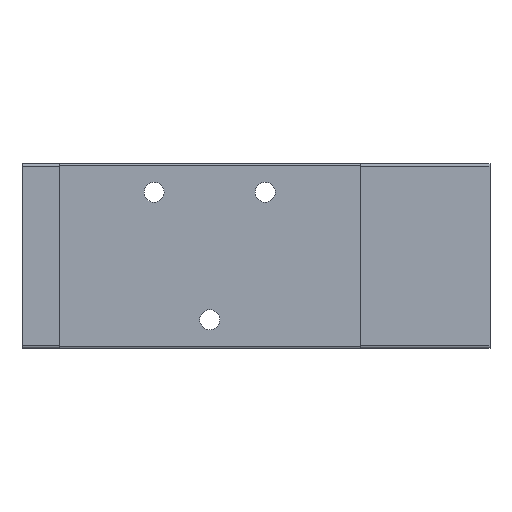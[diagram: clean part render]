
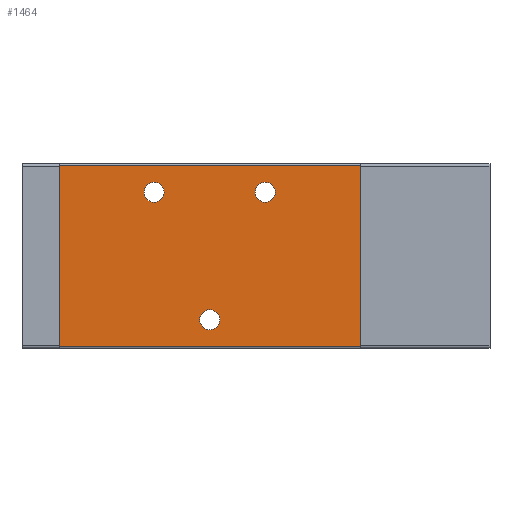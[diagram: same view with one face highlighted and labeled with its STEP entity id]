
A CAD part, front view. The second image highlights one B-rep face of the part: STEP entity #1464.
In plain terms, the highlighted planar face has unit normal (0, -1, 0).
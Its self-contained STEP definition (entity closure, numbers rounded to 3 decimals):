
#9 = CARTESIAN_POINT ( 'NONE',  ( 20.5, 0., 11.6 ) ) ;
#172 = AXIS2_PLACEMENT_3D ( 'NONE', #985, #9600, #15532 ) ;
#738 = ORIENTED_EDGE ( 'NONE', *, *, #4476, .T. ) ;
#915 = DIRECTION ( 'NONE',  ( 0., 1., 0. ) ) ;
#985 = CARTESIAN_POINT ( 'NONE',  ( 32.5, 0., -13.75 ) ) ;
#1061 = CARTESIAN_POINT ( 'NONE',  ( 32.5, 0., -13.75 ) ) ;
#1464 = ADVANCED_FACE ( 'NONE', ( #7481, #9032, #5802, #5424 ), #4223, .F. ) ;
#1754 = CIRCLE ( 'NONE', #5071, 2.15 ) ;
#1792 = EDGE_CURVE ( 'NONE', #12552, #12002, #10863, .T. ) ;
#2098 = ORIENTED_EDGE ( 'NONE', *, *, #8362, .F. ) ;
#2237 = CARTESIAN_POINT ( 'NONE',  ( 32.5, 0., -11.6 ) ) ;
#2275 = EDGE_CURVE ( 'NONE', #8894, #12002, #4065, .T. ) ;
#2303 = DIRECTION ( 'NONE',  ( 0., 0., -1. ) ) ;
#2599 = CARTESIAN_POINT ( 'NONE',  ( 65., 0., 19.5 ) ) ;
#2777 = DIRECTION ( 'NONE',  ( 0., 1., 0. ) ) ;
#3309 = ORIENTED_EDGE ( 'NONE', *, *, #6013, .T. ) ;
#3385 = EDGE_CURVE ( 'NONE', #8894, #4660, #11616, .T. ) ;
#3494 = CARTESIAN_POINT ( 'NONE',  ( 20.5, 0., 15.9 ) ) ;
#3525 = VECTOR ( 'NONE', #5578, 1000. ) ;
#3876 = DIRECTION ( 'NONE',  ( 0., 0., 1. ) ) ;
#4065 = LINE ( 'NONE', #6203, #9905 ) ;
#4223 = PLANE ( 'NONE',  #5173 ) ;
#4476 = EDGE_CURVE ( 'NONE', #13487, #7369, #10605, .T. ) ;
#4517 = EDGE_CURVE ( 'NONE', #13908, #9019, #7195, .T. ) ;
#4660 = VERTEX_POINT ( 'NONE', #13059 ) ;
#4855 = AXIS2_PLACEMENT_3D ( 'NONE', #7758, #6250, #13841 ) ;
#4986 = DIRECTION ( 'NONE',  ( 0., 0., 1. ) ) ;
#5071 = AXIS2_PLACEMENT_3D ( 'NONE', #12203, #2777, #4986 ) ;
#5078 = DIRECTION ( 'NONE',  ( 0., 1., 0. ) ) ;
#5127 = CARTESIAN_POINT ( 'NONE',  ( 20.5, 0., 13.75 ) ) ;
#5159 = ORIENTED_EDGE ( 'NONE', *, *, #2275, .T. ) ;
#5161 = ORIENTED_EDGE ( 'NONE', *, *, #14671, .T. ) ;
#5173 = AXIS2_PLACEMENT_3D ( 'NONE', #10119, #8925, #6653 ) ;
#5424 = FACE_BOUND ( 'NONE', #12884, .T. ) ;
#5578 = DIRECTION ( 'NONE',  ( -1., 0., 0. ) ) ;
#5802 = FACE_BOUND ( 'NONE', #12159, .T. ) ;
#6013 = EDGE_CURVE ( 'NONE', #9019, #13908, #1754, .T. ) ;
#6045 = AXIS2_PLACEMENT_3D ( 'NONE', #5127, #11087, #3876 ) ;
#6203 = CARTESIAN_POINT ( 'NONE',  ( 0., 0., 19.5 ) ) ;
#6250 = DIRECTION ( 'NONE',  ( 0., 1., 0. ) ) ;
#6302 = DIRECTION ( 'NONE',  ( 0., 0., 1. ) ) ;
#6443 = EDGE_CURVE ( 'NONE', #7369, #13487, #8531, .T. ) ;
#6645 = EDGE_CURVE ( 'NONE', #7498, #7350, #11523, .T. ) ;
#6653 = DIRECTION ( 'NONE',  ( 0., 0., 1. ) ) ;
#6758 = CARTESIAN_POINT ( 'NONE',  ( 65., 0., -19.5 ) ) ;
#6875 = CARTESIAN_POINT ( 'NONE',  ( 0., 0., 19.5 ) ) ;
#7195 = CIRCLE ( 'NONE', #11899, 2.15 ) ;
#7283 = CARTESIAN_POINT ( 'NONE',  ( 44.5, 0., 15.9 ) ) ;
#7350 = VERTEX_POINT ( 'NONE', #2237 ) ;
#7369 = VERTEX_POINT ( 'NONE', #3494 ) ;
#7481 = FACE_OUTER_BOUND ( 'NONE', #14726, .T. ) ;
#7498 = VERTEX_POINT ( 'NONE', #14385 ) ;
#7645 = CARTESIAN_POINT ( 'NONE',  ( 65., 0., -19.5 ) ) ;
#7709 = EDGE_LOOP ( 'NONE', ( #12897, #738 ) ) ;
#7758 = CARTESIAN_POINT ( 'NONE',  ( 20.5, 0., 13.75 ) ) ;
#8116 = CARTESIAN_POINT ( 'NONE',  ( 0., 0., -19.5 ) ) ;
#8362 = EDGE_CURVE ( 'NONE', #4660, #12552, #15318, .T. ) ;
#8531 = CIRCLE ( 'NONE', #4855, 2.15 ) ;
#8615 = VECTOR ( 'NONE', #2303, 1000. ) ;
#8732 = DIRECTION ( 'NONE',  ( 0., 0., -1. ) ) ;
#8894 = VERTEX_POINT ( 'NONE', #6875 ) ;
#8925 = DIRECTION ( 'NONE',  ( 0., 1., 0. ) ) ;
#9019 = VERTEX_POINT ( 'NONE', #13363 ) ;
#9032 = FACE_BOUND ( 'NONE', #7709, .T. ) ;
#9374 = CARTESIAN_POINT ( 'NONE',  ( 65., 0., 19.5 ) ) ;
#9600 = DIRECTION ( 'NONE',  ( 0., 1., 0. ) ) ;
#9705 = DIRECTION ( 'NONE',  ( 1., 0., 0. ) ) ;
#9905 = VECTOR ( 'NONE', #8732, 1000. ) ;
#10119 = CARTESIAN_POINT ( 'NONE',  ( 65., 0., 19.5 ) ) ;
#10181 = ORIENTED_EDGE ( 'NONE', *, *, #3385, .F. ) ;
#10605 = CIRCLE ( 'NONE', #6045, 2.15 ) ;
#10863 = LINE ( 'NONE', #6758, #3525 ) ;
#11087 = DIRECTION ( 'NONE',  ( 0., 1., 0. ) ) ;
#11523 = CIRCLE ( 'NONE', #172, 2.15 ) ;
#11616 = LINE ( 'NONE', #2599, #13638 ) ;
#11899 = AXIS2_PLACEMENT_3D ( 'NONE', #14659, #5078, #6302 ) ;
#12002 = VERTEX_POINT ( 'NONE', #8116 ) ;
#12159 = EDGE_LOOP ( 'NONE', ( #15302, #3309 ) ) ;
#12203 = CARTESIAN_POINT ( 'NONE',  ( 44.5, 0., 13.75 ) ) ;
#12552 = VERTEX_POINT ( 'NONE', #7645 ) ;
#12884 = EDGE_LOOP ( 'NONE', ( #5161, #13871 ) ) ;
#12897 = ORIENTED_EDGE ( 'NONE', *, *, #6443, .T. ) ;
#13059 = CARTESIAN_POINT ( 'NONE',  ( 65., 0., 19.5 ) ) ;
#13304 = ORIENTED_EDGE ( 'NONE', *, *, #1792, .F. ) ;
#13363 = CARTESIAN_POINT ( 'NONE',  ( 44.5, 0., 11.6 ) ) ;
#13430 = CIRCLE ( 'NONE', #13949, 2.15 ) ;
#13487 = VERTEX_POINT ( 'NONE', #9 ) ;
#13638 = VECTOR ( 'NONE', #9705, 1000. ) ;
#13841 = DIRECTION ( 'NONE',  ( 0., 0., 1. ) ) ;
#13871 = ORIENTED_EDGE ( 'NONE', *, *, #6645, .T. ) ;
#13908 = VERTEX_POINT ( 'NONE', #7283 ) ;
#13949 = AXIS2_PLACEMENT_3D ( 'NONE', #1061, #915, #14215 ) ;
#14215 = DIRECTION ( 'NONE',  ( 0., 0., 1. ) ) ;
#14385 = CARTESIAN_POINT ( 'NONE',  ( 32.5, 0., -15.9 ) ) ;
#14659 = CARTESIAN_POINT ( 'NONE',  ( 44.5, 0., 13.75 ) ) ;
#14671 = EDGE_CURVE ( 'NONE', #7350, #7498, #13430, .T. ) ;
#14726 = EDGE_LOOP ( 'NONE', ( #13304, #2098, #10181, #5159 ) ) ;
#15302 = ORIENTED_EDGE ( 'NONE', *, *, #4517, .T. ) ;
#15318 = LINE ( 'NONE', #9374, #8615 ) ;
#15532 = DIRECTION ( 'NONE',  ( 0., 0., 1. ) ) ;
